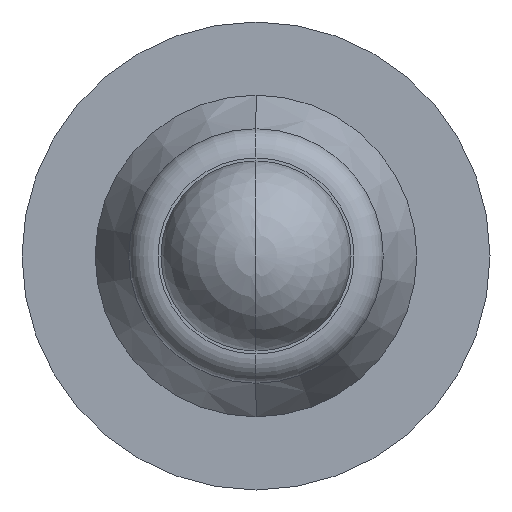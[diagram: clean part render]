
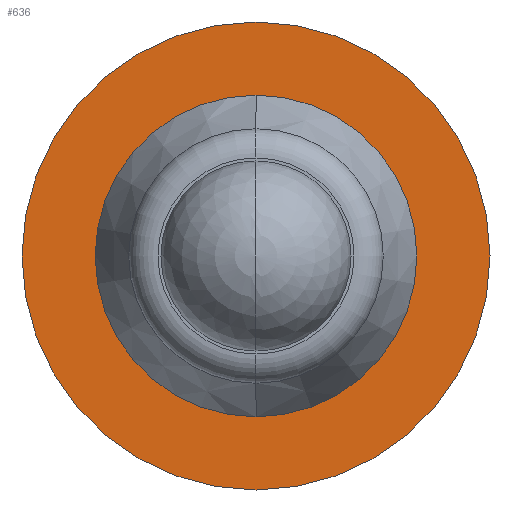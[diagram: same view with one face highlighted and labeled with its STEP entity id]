
A CAD part, left-side view. The second image highlights one B-rep face of the part: STEP entity #636.
In plain terms, the highlighted planar face has unit normal (-1, 0, 0).
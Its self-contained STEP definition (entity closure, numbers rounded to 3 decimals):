
#159=CARTESIAN_POINT('',(-3.9,0.,0.));
#160=DIRECTION('',(1.,0.,0.));
#161=DIRECTION('',(0.,0.,1.));
#162=AXIS2_PLACEMENT_3D('',#159,#160,#161);
#164=CARTESIAN_POINT('',(-3.9,0.,0.));
#165=DIRECTION('',(-1.,0.,0.));
#166=DIRECTION('',(0.,0.,1.));
#167=AXIS2_PLACEMENT_3D('',#164,#165,#166);
#169=CARTESIAN_POINT('',(-3.9,0.,0.));
#170=DIRECTION('',(-1.,0.,0.));
#171=DIRECTION('',(0.,0.,1.));
#172=AXIS2_PLACEMENT_3D('',#169,#170,#171);
#174=CARTESIAN_POINT('',(-3.9,0.,0.));
#175=DIRECTION('',(1.,0.,0.));
#176=DIRECTION('',(0.,0.,1.));
#177=AXIS2_PLACEMENT_3D('',#174,#175,#176);
#311=CARTESIAN_POINT('',(-3.9,0.,1.1));
#312=VERTEX_POINT('',#311);
#313=CARTESIAN_POINT('',(-3.9,0.,1.6));
#315=VERTEX_POINT('',#313);
#347=CARTESIAN_POINT('',(-3.9,0.,-1.1));
#348=VERTEX_POINT('',#347);
#349=CARTESIAN_POINT('',(-3.9,0.,-1.6));
#351=VERTEX_POINT('',#349);
#621=CARTESIAN_POINT('',(-3.9,0.,0.));
#622=DIRECTION('',(-1.,0.,0.));
#623=DIRECTION('',(0.,0.,-1.));
#624=AXIS2_PLACEMENT_3D('',#621,#622,#623);
#625=PLANE('',#624);
#626=ORIENTED_EDGE('',*,*,#603,.T.);
#627=ORIENTED_EDGE('',*,*,#614,.F.);
#628=EDGE_LOOP('',(#626,#627));
#629=FACE_OUTER_BOUND('',#628,.F.);
#631=ORIENTED_EDGE('',*,*,#630,.T.);
#633=ORIENTED_EDGE('',*,*,#632,.F.);
#634=EDGE_LOOP('',(#631,#633));
#635=FACE_BOUND('',#634,.F.);
#636=ADVANCED_FACE('',(#629,#635),#625,.T.);
#163=CIRCLE('',#162,1.6);
#168=CIRCLE('',#167,1.6);
#173=CIRCLE('',#172,1.1);
#178=CIRCLE('',#177,1.1);
#603=EDGE_CURVE('',#315,#351,#163,.T.);
#614=EDGE_CURVE('',#315,#351,#168,.T.);
#630=EDGE_CURVE('',#312,#348,#173,.T.);
#632=EDGE_CURVE('',#312,#348,#178,.T.);
